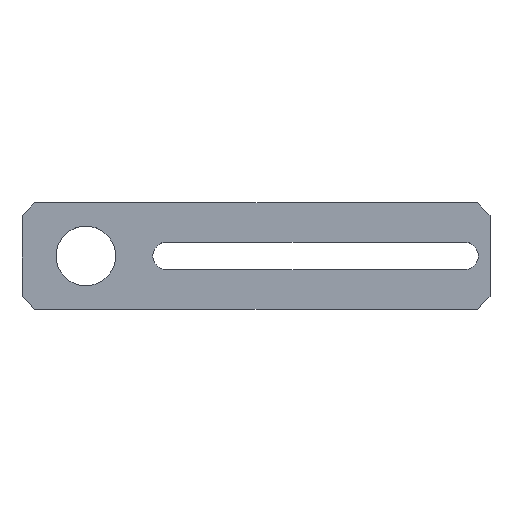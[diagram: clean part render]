
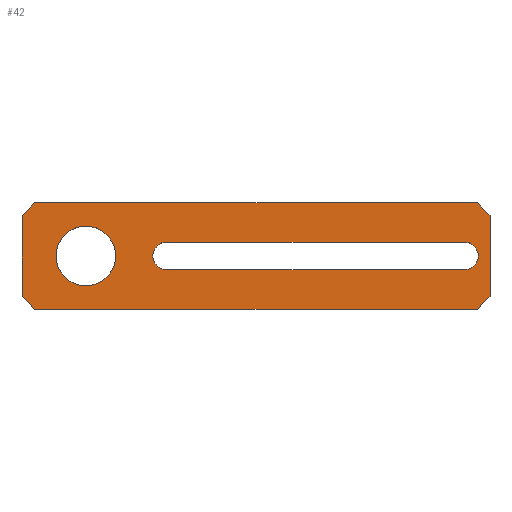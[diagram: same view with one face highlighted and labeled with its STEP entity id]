
A CAD part, top view. The second image highlights one B-rep face of the part: STEP entity #42.
In plain terms, the highlighted planar face has unit normal (0, 0, 1).
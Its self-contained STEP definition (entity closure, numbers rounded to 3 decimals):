
#6 = CARTESIAN_POINT ( 'NONE',  ( 0., 12.5, 5. ) ) ;
#9 = EDGE_LOOP ( 'NONE', ( #462, #532 ) ) ;
#30 = VERTEX_POINT ( 'NONE', #389 ) ;
#31 = CARTESIAN_POINT ( 'NONE',  ( -55., -9.5, 5. ) ) ;
#34 = CARTESIAN_POINT ( 'NONE',  ( -40., 7., 5. ) ) ;
#42 = ADVANCED_FACE ( 'NONE', ( #263, #424, #259 ), #393, .F. ) ;
#43 = CARTESIAN_POINT ( 'NONE',  ( -40., -7., 5. ) ) ;
#50 = CARTESIAN_POINT ( 'NONE',  ( 0., -12.5, 5. ) ) ;
#52 = CARTESIAN_POINT ( 'NONE',  ( 55., 9.5, 5. ) ) ;
#53 = VERTEX_POINT ( 'NONE', #378 ) ;
#60 = DIRECTION ( 'NONE',  ( -1., 0., 0. ) ) ;
#62 = VECTOR ( 'NONE', #60, 1000. ) ;
#71 = CARTESIAN_POINT ( 'NONE',  ( -55., -9.5, 5. ) ) ;
#73 = CARTESIAN_POINT ( 'NONE',  ( 52., -12.5, 5. ) ) ;
#74 = CIRCLE ( 'NONE', #379, 7. ) ;
#76 = AXIS2_PLACEMENT_3D ( 'NONE', #359, #376, #217 ) ;
#78 = DIRECTION ( 'NONE',  ( 1., 0., 0. ) ) ;
#83 = VECTOR ( 'NONE', #121, 1000. ) ;
#89 = VERTEX_POINT ( 'NONE', #487 ) ;
#90 = CARTESIAN_POINT ( 'NONE',  ( -52., 12.5, 5. ) ) ;
#94 = ORIENTED_EDGE ( 'NONE', *, *, #134, .F. ) ;
#97 = DIRECTION ( 'NONE',  ( 0., 1., 0. ) ) ;
#99 = DIRECTION ( 'NONE',  ( 0., 1., 0. ) ) ;
#101 = DIRECTION ( 'NONE',  ( -0.707, 0.707, 0. ) ) ;
#102 = VERTEX_POINT ( 'NONE', #52 ) ;
#107 = CIRCLE ( 'NONE', #384, 3.25 ) ;
#108 = ORIENTED_EDGE ( 'NONE', *, *, #433, .F. ) ;
#115 = VECTOR ( 'NONE', #101, 1000. ) ;
#121 = DIRECTION ( 'NONE',  ( 0., -1., 0. ) ) ;
#125 = CARTESIAN_POINT ( 'NONE',  ( 49., 3.25, 5. ) ) ;
#130 = CARTESIAN_POINT ( 'NONE',  ( 55., 0., 5. ) ) ;
#134 = EDGE_CURVE ( 'NONE', #292, #195, #286, .T. ) ;
#135 = CARTESIAN_POINT ( 'NONE',  ( -40., 0., 5. ) ) ;
#136 = CARTESIAN_POINT ( 'NONE',  ( 0., -3.25, 5. ) ) ;
#147 = VERTEX_POINT ( 'NONE', #90 ) ;
#148 = VERTEX_POINT ( 'NONE', #125 ) ;
#150 = EDGE_CURVE ( 'NONE', #229, #329, #74, .T. ) ;
#152 = ORIENTED_EDGE ( 'NONE', *, *, #401, .F. ) ;
#154 = EDGE_CURVE ( 'NONE', #102, #89, #213, .T. ) ;
#163 = DIRECTION ( 'NONE',  ( 0.707, 0.707, 0. ) ) ;
#169 = ORIENTED_EDGE ( 'NONE', *, *, #190, .F. ) ;
#170 = DIRECTION ( 'NONE',  ( 0., 0., 1. ) ) ;
#179 = CARTESIAN_POINT ( 'NONE',  ( -52., 12.5, 5. ) ) ;
#183 = AXIS2_PLACEMENT_3D ( 'NONE', #448, #397, #463 ) ;
#184 = ORIENTED_EDGE ( 'NONE', *, *, #497, .F. ) ;
#190 = EDGE_CURVE ( 'NONE', #53, #501, #471, .T. ) ;
#195 = VERTEX_POINT ( 'NONE', #450 ) ;
#199 = LINE ( 'NONE', #6, #252 ) ;
#202 = CARTESIAN_POINT ( 'NONE',  ( 52., -12.5, 5. ) ) ;
#204 = VECTOR ( 'NONE', #224, 1000. ) ;
#205 = CARTESIAN_POINT ( 'NONE',  ( 0., 3.25, 5. ) ) ;
#207 = CARTESIAN_POINT ( 'NONE',  ( -21., -3.25, 5. ) ) ;
#208 = VECTOR ( 'NONE', #163, 1000. ) ;
#213 = LINE ( 'NONE', #130, #83 ) ;
#217 = DIRECTION ( 'NONE',  ( 0., 1., 0. ) ) ;
#222 = LINE ( 'NONE', #136, #204 ) ;
#223 = ORIENTED_EDGE ( 'NONE', *, *, #475, .F. ) ;
#224 = DIRECTION ( 'NONE',  ( 1., 0., 0. ) ) ;
#227 = VERTEX_POINT ( 'NONE', #73 ) ;
#229 = VERTEX_POINT ( 'NONE', #34 ) ;
#248 = ORIENTED_EDGE ( 'NONE', *, *, #445, .F. ) ;
#252 = VECTOR ( 'NONE', #78, 1000. ) ;
#259 = FACE_OUTER_BOUND ( 'NONE', #392, .T. ) ;
#263 = FACE_BOUND ( 'NONE', #387, .T. ) ;
#284 = ORIENTED_EDGE ( 'NONE', *, *, #388, .F. ) ;
#286 = LINE ( 'NONE', #519, #294 ) ;
#292 = VERTEX_POINT ( 'NONE', #71 ) ;
#294 = VECTOR ( 'NONE', #99, 1000. ) ;
#317 = CARTESIAN_POINT ( 'NONE',  ( 49., 0., 5. ) ) ;
#323 = EDGE_CURVE ( 'NONE', #148, #53, #464, .T. ) ;
#326 = ORIENTED_EDGE ( 'NONE', *, *, #323, .F. ) ;
#329 = VERTEX_POINT ( 'NONE', #43 ) ;
#330 = EDGE_CURVE ( 'NONE', #89, #227, #428, .T. ) ;
#335 = DIRECTION ( 'NONE',  ( 0.707, -0.707, 0. ) ) ;
#338 = VERTEX_POINT ( 'NONE', #453 ) ;
#359 = CARTESIAN_POINT ( 'NONE',  ( -40., 0., 5. ) ) ;
#365 = EDGE_CURVE ( 'NONE', #329, #229, #425, .T. ) ;
#375 = CARTESIAN_POINT ( 'NONE',  ( 55., -12.5, 5. ) ) ;
#376 = DIRECTION ( 'NONE',  ( 0., 0., 1. ) ) ;
#378 = CARTESIAN_POINT ( 'NONE',  ( -21., 3.25, 5. ) ) ;
#379 = AXIS2_PLACEMENT_3D ( 'NONE', #135, #170, #541 ) ;
#383 = CARTESIAN_POINT ( 'NONE',  ( -52., -12.5, 5. ) ) ;
#384 = AXIS2_PLACEMENT_3D ( 'NONE', #317, #525, #97 ) ;
#387 = EDGE_LOOP ( 'NONE', ( #248, #184, #169, #326 ) ) ;
#388 = EDGE_CURVE ( 'NONE', #227, #396, #411, .T. ) ;
#389 = CARTESIAN_POINT ( 'NONE',  ( 49., -3.25, 5. ) ) ;
#392 = EDGE_LOOP ( 'NONE', ( #94, #108, #284, #431, #399, #152, #529, #223 ) ) ;
#393 = PLANE ( 'NONE',  #456 ) ;
#395 = DIRECTION ( 'NONE',  ( -1., 0., 0. ) ) ;
#396 = VERTEX_POINT ( 'NONE', #383 ) ;
#397 = DIRECTION ( 'NONE',  ( 0., 0., 1. ) ) ;
#399 = ORIENTED_EDGE ( 'NONE', *, *, #154, .F. ) ;
#401 = EDGE_CURVE ( 'NONE', #338, #102, #409, .T. ) ;
#403 = VECTOR ( 'NONE', #335, 1000. ) ;
#409 = LINE ( 'NONE', #486, #403 ) ;
#410 = DIRECTION ( 'NONE',  ( 0., 0., -1. ) ) ;
#411 = LINE ( 'NONE', #50, #62 ) ;
#414 = DIRECTION ( 'NONE',  ( -1., 0., 0. ) ) ;
#421 = VECTOR ( 'NONE', #467, 1000. ) ;
#424 = FACE_BOUND ( 'NONE', #9, .T. ) ;
#425 = CIRCLE ( 'NONE', #76, 7. ) ;
#428 = LINE ( 'NONE', #202, #421 ) ;
#431 = ORIENTED_EDGE ( 'NONE', *, *, #330, .F. ) ;
#433 = EDGE_CURVE ( 'NONE', #396, #292, #457, .T. ) ;
#445 = EDGE_CURVE ( 'NONE', #30, #148, #107, .T. ) ;
#447 = VECTOR ( 'NONE', #395, 1000. ) ;
#448 = CARTESIAN_POINT ( 'NONE',  ( -21., 0., 5. ) ) ;
#450 = CARTESIAN_POINT ( 'NONE',  ( -55., 9.5, 5. ) ) ;
#453 = CARTESIAN_POINT ( 'NONE',  ( 52., 12.5, 5. ) ) ;
#456 = AXIS2_PLACEMENT_3D ( 'NONE', #375, #410, #414 ) ;
#457 = LINE ( 'NONE', #31, #115 ) ;
#462 = ORIENTED_EDGE ( 'NONE', *, *, #150, .F. ) ;
#463 = DIRECTION ( 'NONE',  ( 0., 1., 0. ) ) ;
#464 = LINE ( 'NONE', #205, #447 ) ;
#467 = DIRECTION ( 'NONE',  ( -0.707, -0.707, 0. ) ) ;
#471 = CIRCLE ( 'NONE', #183, 3.25 ) ;
#475 = EDGE_CURVE ( 'NONE', #195, #147, #477, .T. ) ;
#477 = LINE ( 'NONE', #179, #208 ) ;
#486 = CARTESIAN_POINT ( 'NONE',  ( 55., 9.5, 5. ) ) ;
#487 = CARTESIAN_POINT ( 'NONE',  ( 55., -9.5, 5. ) ) ;
#497 = EDGE_CURVE ( 'NONE', #501, #30, #222, .T. ) ;
#501 = VERTEX_POINT ( 'NONE', #207 ) ;
#519 = CARTESIAN_POINT ( 'NONE',  ( -55., 0., 5. ) ) ;
#525 = DIRECTION ( 'NONE',  ( 0., 0., 1. ) ) ;
#529 = ORIENTED_EDGE ( 'NONE', *, *, #537, .F. ) ;
#532 = ORIENTED_EDGE ( 'NONE', *, *, #365, .F. ) ;
#537 = EDGE_CURVE ( 'NONE', #147, #338, #199, .T. ) ;
#541 = DIRECTION ( 'NONE',  ( 0., 1., 0. ) ) ;
